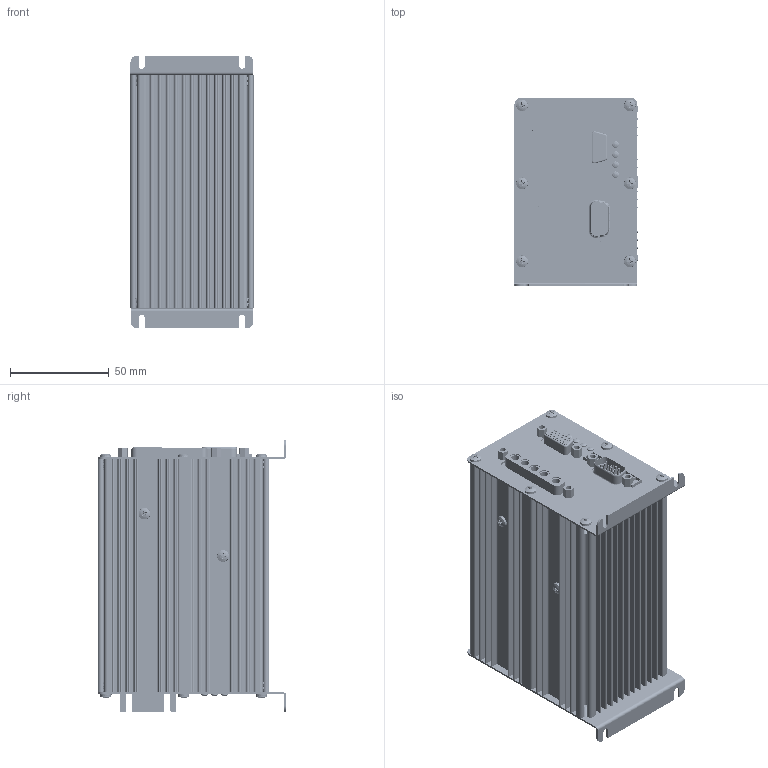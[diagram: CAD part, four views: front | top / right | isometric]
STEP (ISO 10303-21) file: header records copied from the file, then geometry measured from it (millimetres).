
FILE_DESCRIPTION(/* description */ ('Alibre Inc.'),/* implementation_level */ '2;1');
FILE_NAME(/* name */ 'export0',/* time_stamp */ '2012-06-18T10:48:12-07:00',/* author */ (''),/* organization */ (''),/* preprocessor_version */ 'ST-DEVELOPER v14',/* originating_system */ 'Alibre',/* authorisation */ '');
FILE_SCHEMA (('AUTOMOTIVE_DESIGN'));
Bounding box: 62.35 x 95.33 x 137.95 mm (x, y, z)
Volume: 213993.7 mm3; surface area: 223389.8 mm2
Topology: 555 solids, 556 shells, 7808 faces, 18463 edges, 11904 vertices
Faces by surface type: plane 5834, cone 985, cylinder 893, sphere 56, torus 29, revolution 7, bspline 4
Full cylindrical faces by diameter (mm): 0.4 x1, 0.5 x3, 0.508 x3, 0.813 x9, 1 x7, 1.016 x66, 1.092 x10, 1.295 x20, 1.4 x9, 1.5 x6, 1.524 x2, 1.6 x1, 1.7 x4, 2 x3, 2.108 x16, 2.489 x6, 2.845 x12, 2.87 x6, 2.921 x7, 3.048 x2, 3.175 x6, 3.2 x2, 3.302 x7, 3.505 x18, 3.556 x4, 3.962 x2, 4.013 x5, 4.089 x5, 4.216 x5, 4.231 x4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
Entity records: 155911 total; most frequent: CARTESIAN_POINT 27950, ORIENTED_EDGE 23250, DIRECTION 22812, EDGE_CURVE 11613, VECTOR 9528, LINE 9528, AXIS2_PLACEMENT_3D 8399, VERTEX_POINT 7683
